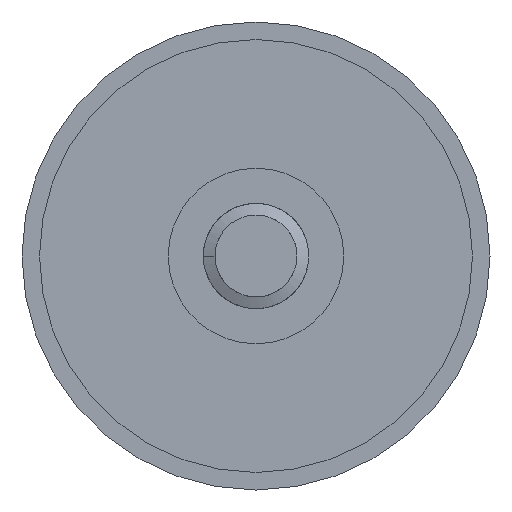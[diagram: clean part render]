
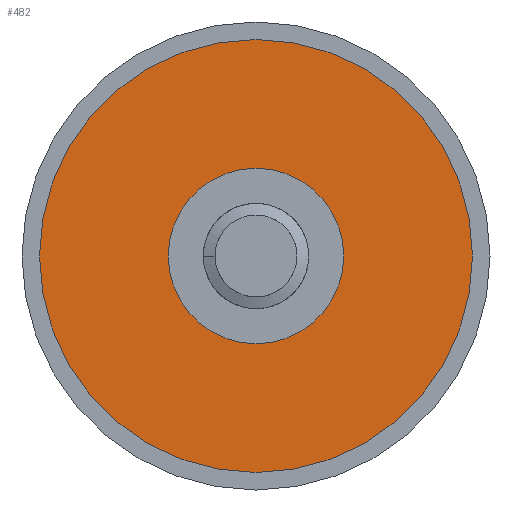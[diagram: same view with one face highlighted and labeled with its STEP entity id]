
A CAD part, front view. The second image highlights one B-rep face of the part: STEP entity #482.
In plain terms, the highlighted planar face has unit normal (0, -1, 0).
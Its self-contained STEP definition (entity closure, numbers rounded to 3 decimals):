
#97=PLANE('',#530);
#125=FACE_BOUND('',#187,.T.);
#143=FACE_OUTER_BOUND('',#186,.T.);
#186=EDGE_LOOP('',(#363));
#187=EDGE_LOOP('',(#364));
#223=CIRCLE('',#515,7.5);
#227=CIRCLE('',#521,18.5);
#240=VERTEX_POINT('',#691);
#244=VERTEX_POINT('',#701);
#287=EDGE_CURVE('',#240,#240,#223,.T.);
#291=EDGE_CURVE('',#244,#244,#227,.T.);
#363=ORIENTED_EDGE('',*,*,#291,.T.);
#364=ORIENTED_EDGE('',*,*,#287,.F.);
#482=ADVANCED_FACE('',(#143,#125),#97,.F.);
#515=AXIS2_PLACEMENT_3D('',#692,#574,#575);
#521=AXIS2_PLACEMENT_3D('',#702,#586,#587);
#530=AXIS2_PLACEMENT_3D('',#714,#604,#605);
#574=DIRECTION('center_axis',(0.,-1.,0.));
#575=DIRECTION('ref_axis',(0.,0.,-1.));
#586=DIRECTION('center_axis',(0.,-1.,0.));
#587=DIRECTION('ref_axis',(0.,0.,-1.));
#604=DIRECTION('center_axis',(0.,1.,0.));
#605=DIRECTION('ref_axis',(0.,0.,1.));
#691=CARTESIAN_POINT('',(0.,0.,-7.5));
#692=CARTESIAN_POINT('Origin',(0.,0.,0.));
#701=CARTESIAN_POINT('',(0.,0.,-18.5));
#702=CARTESIAN_POINT('Origin',(0.,0.,0.));
#714=CARTESIAN_POINT('Origin',(0.,0.,0.));
